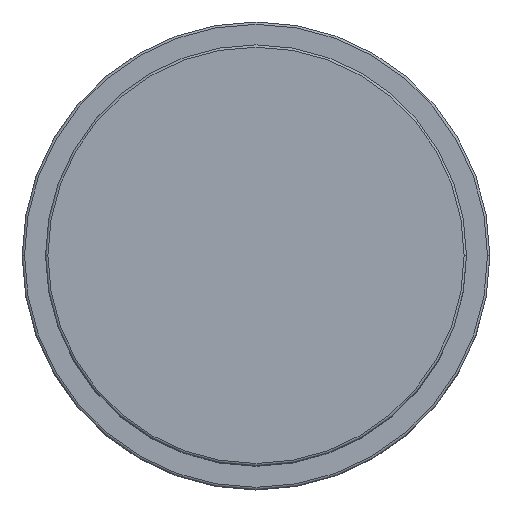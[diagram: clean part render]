
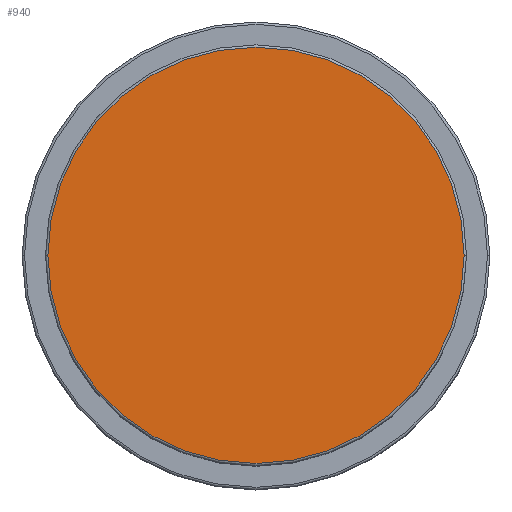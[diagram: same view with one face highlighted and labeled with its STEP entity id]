
A CAD part, top view. The second image highlights one B-rep face of the part: STEP entity #940.
In plain terms, the highlighted planar face has unit normal (0, 0, 1).
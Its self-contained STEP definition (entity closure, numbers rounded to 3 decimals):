
#5 = DIRECTION ( 'NONE',  ( 1., 0., 0. ) ) ;
#20 = DIRECTION ( 'NONE',  ( 0., 0., 1. ) ) ;
#32 = AXIS2_PLACEMENT_3D ( 'NONE', #1429, #20, #823 ) ;
#38 = EDGE_CURVE ( 'NONE', #556, #106, #1095, .T. ) ;
#106 = VERTEX_POINT ( 'NONE', #181 ) ;
#181 = CARTESIAN_POINT ( 'NONE',  ( -44.5, 0., 82. ) ) ;
#376 = AXIS2_PLACEMENT_3D ( 'NONE', #1501, #1838, #1654 ) ;
#547 = FACE_OUTER_BOUND ( 'NONE', #1849, .T. ) ;
#556 = VERTEX_POINT ( 'NONE', #1225 ) ;
#679 = ORIENTED_EDGE ( 'NONE', *, *, #1013, .T. ) ;
#823 = DIRECTION ( 'NONE',  ( 1., 0., 0. ) ) ;
#940 = ADVANCED_FACE ( 'NONE', ( #547 ), #1207, .T. ) ;
#1013 = EDGE_CURVE ( 'NONE', #106, #556, #1735, .T. ) ;
#1095 = CIRCLE ( 'NONE', #1960, 44.5 ) ;
#1207 = PLANE ( 'NONE',  #376 ) ;
#1225 = CARTESIAN_POINT ( 'NONE',  ( 44.5, 0., 82. ) ) ;
#1414 = DIRECTION ( 'NONE',  ( 0., 0., 1. ) ) ;
#1429 = CARTESIAN_POINT ( 'NONE',  ( 0., 0., 82. ) ) ;
#1501 = CARTESIAN_POINT ( 'NONE',  ( 0., 0., 82. ) ) ;
#1654 = DIRECTION ( 'NONE',  ( 1., 0., 0. ) ) ;
#1727 = CARTESIAN_POINT ( 'NONE',  ( 0., 0., 82. ) ) ;
#1735 = CIRCLE ( 'NONE', #32, 44.5 ) ;
#1781 = ORIENTED_EDGE ( 'NONE', *, *, #38, .T. ) ;
#1838 = DIRECTION ( 'NONE',  ( 0., 0., 1. ) ) ;
#1849 = EDGE_LOOP ( 'NONE', ( #1781, #679 ) ) ;
#1960 = AXIS2_PLACEMENT_3D ( 'NONE', #1727, #1414, #5 ) ;
